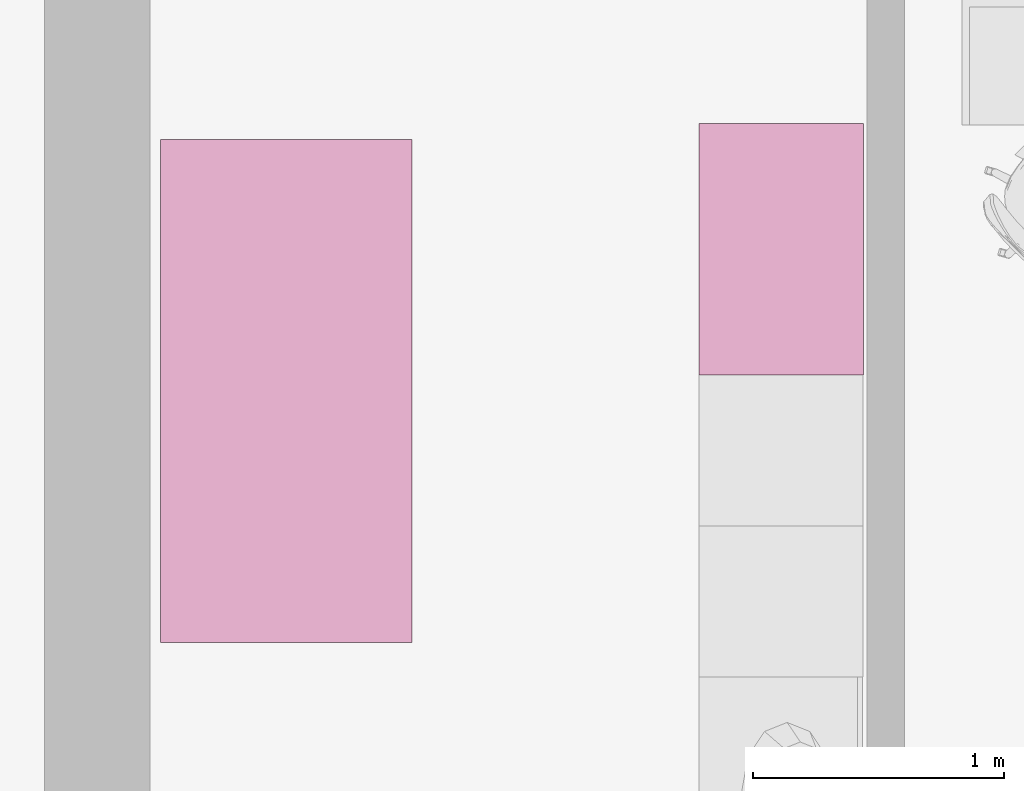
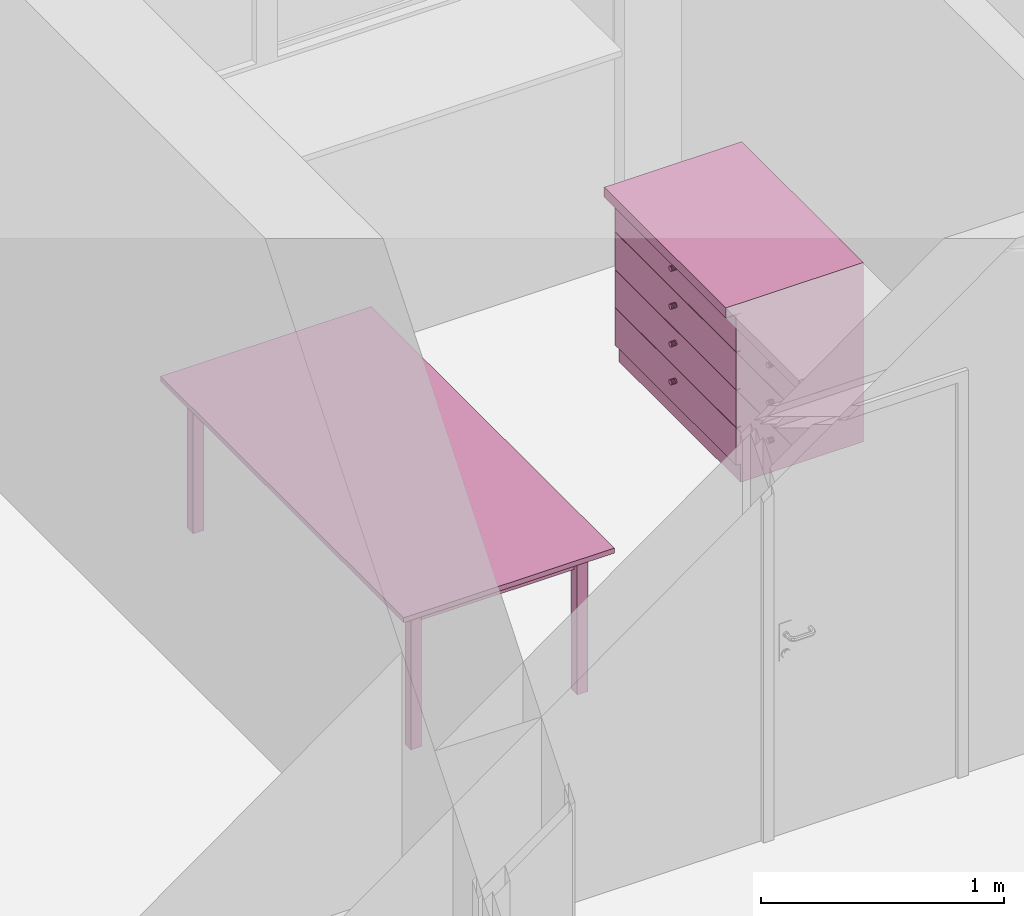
# One storey, part 109 of 127: 2 furnishings.
"""IFC2X3 building model written with IfcOpenShell, lengths in millimetres."""

from ifc_helpers import new_model, entity, si_unit, converted_unit, derived_unit, money_unit, direction, frame, origin_with_axes, place, context, subcontext, project, spatial, faceted_brep, type_object, element, save


model = new_model("IFC2X3")

# Units and contexts
model_context = context("Model", 3, precision=1e-05, world=origin_with_axes(), true_north=direction((0.0, 1.0)))
body_context = subcontext(model_context, "Body", "Model", "MODEL_VIEW")
ifc_project = project(units=[si_unit("LENGTHUNIT", "METRE", prefix="MILLI"), si_unit("AREAUNIT", "SQUARE_METRE"), si_unit("VOLUMEUNIT", "CUBIC_METRE"), converted_unit("PLANEANGLEUNIT", "DEGREE", entity("IfcPlaneAngleMeasure", 0.0174532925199), si_unit("PLANEANGLEUNIT", "RADIAN"), dimensions=[0, 0, 0, 0, 0, 0, 0]), si_unit("SOLIDANGLEUNIT", "STERADIAN"), money_unit("EUR"), converted_unit("TIMEUNIT", "Year", entity("IfcTimeMeasure", 31556926.0), si_unit("TIMEUNIT", "SECOND"), dimensions=[0, 0, 1, 0, 0, 0, 0]), si_unit("MASSUNIT", "GRAM", prefix="KILO"), si_unit("THERMODYNAMICTEMPERATUREUNIT", "DEGREE_CELSIUS"), si_unit("LUMINOUSINTENSITYUNIT", "LUMEN"), si_unit("ENERGYUNIT", "JOULE", prefix="MEGA"), derived_unit("THERMALCONDUCTANCEUNIT", [(si_unit("POWERUNIT", "WATT"), 1), (si_unit("LENGTHUNIT", "METRE"), -1), (si_unit("THERMODYNAMICTEMPERATUREUNIT", "KELVIN"), -1)]), derived_unit("SPECIFICHEATCAPACITYUNIT", [(si_unit("ENERGYUNIT", "JOULE"), 1), (si_unit("MASSUNIT", "GRAM", prefix="KILO"), -1), (si_unit("THERMODYNAMICTEMPERATUREUNIT", "KELVIN"), -1)]), derived_unit("MASSDENSITYUNIT", [(si_unit("MASSUNIT", "GRAM", prefix="KILO"), 1), (si_unit("VOLUMEUNIT", "CUBIC_METRE"), -1)])], contexts=[model_context])

# Site, building, storey
site_placement = place(None, origin_with_axes())
site = spatial("IfcSite", under=ifc_project, at=site_placement, Name="Site", CompositionType="ELEMENT")
building_placement = place(site_placement, origin_with_axes())
building = spatial("IfcBuilding", under=site, at=building_placement, Name="Building", CompositionType="ELEMENT")
storey_placement = place(building_placement, origin_with_axes())
storey = spatial("IfcBuildingStorey", under=building, at=storey_placement, Name="1 KORRUS", CompositionType="ELEMENT", Elevation=0.0)

# Furnishings
furnishing_element_type_1 = type_object("IfcFurnishingElementType", Name="Model Element 29")
furnishing_1_placement = place(storey_placement, frame((17200.3658533, 68504.2060614, 0.0), z_axis=(0.0, 0.0, 1.0), x_axis=(0.0, 1.0, 0.0)))
element("IfcFurnishingElement", 1, at=furnishing_1_placement, inside=storey, type_object=furnishing_element_type_1, Name="FU - 017", context=body_context, shape_type="Brep", body=[
    faceted_brep([(130.0, 80.0, 0.0), (80.0, 80.0, 0.0), (80.0, 130.0, 0.0), (130.0, 130.0, 0.0), (130.0, 80.0, 715.0), (80.0, 80.0, 715.0), (80.0, 130.0, 715.0), (130.0, 130.0, 715.0)], [[[0, 1, 2, 3]], [[1, 0, 4, 5]], [[2, 1, 5, 6]], [[3, 2, 6, 7]], [[0, 3, 7, 4]], [[5, 4, 7, 6]]]),
    faceted_brep([(1920.0, 80.0, 0.0), (1870.0, 80.0, 0.0), (1870.0, 130.0, 0.0), (1920.0, 130.0, 0.0), (1920.0, 80.0, 715.0), (1870.0, 80.0, 715.0), (1870.0, 130.0, 715.0), (1920.0, 130.0, 715.0)], [[[0, 1, 2, 3]], [[1, 0, 4, 5]], [[2, 1, 5, 6]], [[3, 2, 6, 7]], [[0, 3, 7, 4]], [[5, 4, 7, 6]]]),
    faceted_brep([(130.0, 870.0, 0.0), (80.0, 870.0, 0.0), (80.0, 920.0, 0.0), (130.0, 920.0, 0.0), (130.0, 870.0, 715.0), (80.0, 870.0, 715.0), (80.0, 920.0, 715.0), (130.0, 920.0, 715.0)], [[[0, 1, 2, 3]], [[1, 0, 4, 5]], [[2, 1, 5, 6]], [[3, 2, 6, 7]], [[0, 3, 7, 4]], [[5, 4, 7, 6]]]),
    faceted_brep([(1920.0, 870.0, 0.0), (1870.0, 870.0, 0.0), (1870.0, 920.0, 0.0), (1920.0, 920.0, 0.0), (1920.0, 870.0, 715.0), (1870.0, 870.0, 715.0), (1870.0, 920.0, 715.0), (1920.0, 920.0, 715.0)], [[[0, 1, 2, 3]], [[1, 0, 4, 5]], [[2, 1, 5, 6]], [[3, 2, 6, 7]], [[0, 3, 7, 4]], [[5, 4, 7, 6]]]),
    faceted_brep([(2000.0, 0.0, 715.0), (0.0, 0.0, 715.0), (0.0, 1000.0, 715.0), (2000.0, 1000.0, 715.0), (2000.0, 0.0, 740.0), (0.0, 0.0, 740.0), (0.0, 1000.0, 740.0), (2000.0, 1000.0, 740.0)], [[[0, 1, 2, 3]], [[1, 0, 4, 5]], [[2, 1, 5, 6]], [[3, 2, 6, 7]], [[0, 3, 7, 4]], [[5, 4, 7, 6]]]),
    faceted_brep([(130.0, 105.0, 615.0), (1870.0, 105.0, 615.0), (1870.0, 105.0, 715.0), (130.0, 105.0, 715.0), (130.0, 130.0, 615.0), (155.0, 130.0, 615.0), (155.0, 155.0, 615.0), (1845.0, 155.0, 615.0), (1845.0, 130.0, 615.0), (1870.0, 130.0, 615.0), (1870.0, 130.0, 715.0), (1845.0, 130.0, 715.0), (1845.0, 155.0, 715.0), (155.0, 155.0, 715.0), (155.0, 130.0, 715.0), (130.0, 130.0, 715.0)], [[[0, 1, 2, 3]], [[0, 4, 5, 6, 7, 8, 9, 1]], [[1, 9, 10, 2]], [[3, 2, 10, 11, 12, 13, 14, 15]], [[4, 0, 3, 15]], [[5, 4, 15, 14]], [[6, 5, 14, 13]], [[7, 6, 13, 12]], [[8, 7, 12, 11]], [[9, 8, 11, 10]]]),
    faceted_brep([(155.0, 130.0, 615.0), (105.0, 130.0, 615.0), (105.0, 870.0, 615.0), (155.0, 870.0, 615.0), (155.0, 130.0, 715.0), (105.0, 130.0, 715.0), (105.0, 870.0, 715.0), (155.0, 870.0, 715.0)], [[[0, 1, 2, 3]], [[1, 0, 4, 5]], [[2, 1, 5, 6]], [[3, 2, 6, 7]], [[0, 3, 7, 4]], [[5, 4, 7, 6]]]),
    faceted_brep([(1870.0, 895.0, 615.0), (130.0, 895.0, 615.0), (130.0, 895.0, 715.0), (1870.0, 895.0, 715.0), (1870.0, 870.0, 615.0), (1845.0, 870.0, 615.0), (1845.0, 845.0, 615.0), (155.0, 845.0, 615.0), (155.0, 870.0, 615.0), (130.0, 870.0, 615.0), (130.0, 870.0, 715.0), (155.0, 870.0, 715.0), (155.0, 845.0, 715.0), (1845.0, 845.0, 715.0), (1845.0, 870.0, 715.0), (1870.0, 870.0, 715.0)], [[[0, 1, 2, 3]], [[0, 4, 5, 6, 7, 8, 9, 1]], [[1, 9, 10, 2]], [[3, 2, 10, 11, 12, 13, 14, 15]], [[4, 0, 3, 15]], [[5, 4, 15, 14]], [[6, 5, 14, 13]], [[7, 6, 13, 12]], [[8, 7, 12, 11]], [[9, 8, 11, 10]]]),
    faceted_brep([(1845.0, 870.0, 615.0), (1895.0, 870.0, 615.0), (1895.0, 130.0, 615.0), (1845.0, 130.0, 615.0), (1845.0, 870.0, 715.0), (1895.0, 870.0, 715.0), (1895.0, 130.0, 715.0), (1845.0, 130.0, 715.0)], [[[0, 1, 2, 3]], [[1, 0, 4, 5]], [[2, 1, 5, 6]], [[3, 2, 6, 7]], [[0, 3, 7, 4]], [[5, 4, 7, 6]]]),
])
furnishing_element_type_2 = type_object("IfcFurnishingElementType", Name="Model Element 28")
furnishing_2_placement = place(storey_placement, frame((18343.894127, 70567.8278971, 0.0), z_axis=(0.0, 0.0, 1.0), x_axis=(0.0, -1.0, 0.0)))
element("IfcFurnishingElement", 2, at=furnishing_2_placement, inside=storey, type_object=furnishing_element_type_2, Name="FU - 006", context=body_context, shape_type="Brep", body=[
    faceted_brep([(1.5, 70.0, 91.5), (998.5, 70.0, 91.5), (998.5, 50.0, 91.5), (1.5, 50.0, 91.5), (1.5, 70.0, 278.5), (998.5, 70.0, 278.5), (998.5, 50.0, 278.5), (1.5, 50.0, 278.5)], [[[0, 1, 2, 3]], [[0, 4, 5, 1]], [[1, 5, 6, 2]], [[3, 2, 6, 7]], [[4, 0, 3, 7]], [[5, 4, 7, 6]]]),
    faceted_brep([(495.407798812, 50.0, 203.91344561), (491.514718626, 50.0, 206.514718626), (488.91344561, 50.0, 210.407798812), (488.0, 50.0, 215.0), (488.91344561, 50.0, 219.592201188), (491.514718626, 50.0, 223.485281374), (495.407798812, 50.0, 226.08655439), (500.0, 50.0, 227.0), (504.592201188, 50.0, 226.08655439), (508.485281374, 50.0, 223.485281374), (511.08655439, 50.0, 219.592201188), (512.0, 50.0, 215.0), (511.08655439, 50.0, 210.407798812), (508.485281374, 50.0, 206.514718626), (504.592201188, 50.0, 203.91344561), (500.0, 50.0, 203.0), (495.407798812, 25.0, 203.91344561), (491.514718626, 25.0, 206.514718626), (488.91344561, 25.0, 210.407798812), (488.0, 25.0, 215.0), (488.91344561, 25.0, 219.592201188), (491.514718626, 25.0, 223.485281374), (495.407798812, 25.0, 226.08655439), (500.0, 25.0, 227.0), (504.592201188, 25.0, 226.08655439), (508.485281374, 25.0, 223.485281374), (511.08655439, 25.0, 219.592201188), (512.0, 25.0, 215.0), (511.08655439, 25.0, 210.407798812), (508.485281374, 25.0, 206.514718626), (504.592201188, 25.0, 203.91344561), (500.0, 25.0, 203.0)], [[[0, 1, 2, 3, 4, 5, 6, 7, 8, 9, 10, 11, 12, 13, 14, 15]], [[1, 0, 16, 17]], [[2, 1, 17, 18]], [[3, 2, 18, 19]], [[4, 3, 19, 20]], [[5, 4, 20, 21]], [[6, 5, 21, 22]], [[7, 6, 22, 23]], [[8, 7, 23, 24]], [[9, 8, 24, 25]], [[10, 9, 25, 26]], [[11, 10, 26, 27]], [[12, 11, 27, 28]], [[13, 12, 28, 29]], [[14, 13, 29, 30]], [[15, 14, 30, 31]], [[0, 15, 31, 16]], [[16, 31, 30, 29, 28, 27, 26, 25, 24, 23, 22, 21, 20, 19, 18, 17]]]),
    faceted_brep([(1.5, 70.0, 281.5), (998.5, 70.0, 281.5), (998.5, 50.0, 281.5), (1.5, 50.0, 281.5), (1.5, 70.0, 468.5), (998.5, 70.0, 468.5), (998.5, 50.0, 468.5), (1.5, 50.0, 468.5)], [[[0, 1, 2, 3]], [[0, 4, 5, 1]], [[1, 5, 6, 2]], [[3, 2, 6, 7]], [[4, 0, 3, 7]], [[5, 4, 7, 6]]]),
    faceted_brep([(495.407798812, 50.0, 393.91344561), (491.514718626, 50.0, 396.514718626), (488.91344561, 50.0, 400.407798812), (488.0, 50.0, 405.0), (488.91344561, 50.0, 409.592201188), (491.514718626, 50.0, 413.485281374), (495.407798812, 50.0, 416.08655439), (500.0, 50.0, 417.0), (504.592201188, 50.0, 416.08655439), (508.485281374, 50.0, 413.485281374), (511.08655439, 50.0, 409.592201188), (512.0, 50.0, 405.0), (511.08655439, 50.0, 400.407798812), (508.485281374, 50.0, 396.514718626), (504.592201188, 50.0, 393.91344561), (500.0, 50.0, 393.0), (495.407798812, 25.0, 393.91344561), (491.514718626, 25.0, 396.514718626), (488.91344561, 25.0, 400.407798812), (488.0, 25.0, 405.0), (488.91344561, 25.0, 409.592201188), (491.514718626, 25.0, 413.485281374), (495.407798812, 25.0, 416.08655439), (500.0, 25.0, 417.0), (504.592201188, 25.0, 416.08655439), (508.485281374, 25.0, 413.485281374), (511.08655439, 25.0, 409.592201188), (512.0, 25.0, 405.0), (511.08655439, 25.0, 400.407798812), (508.485281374, 25.0, 396.514718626), (504.592201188, 25.0, 393.91344561), (500.0, 25.0, 393.0)], [[[0, 1, 2, 3, 4, 5, 6, 7, 8, 9, 10, 11, 12, 13, 14, 15]], [[1, 0, 16, 17]], [[2, 1, 17, 18]], [[3, 2, 18, 19]], [[4, 3, 19, 20]], [[5, 4, 20, 21]], [[6, 5, 21, 22]], [[7, 6, 22, 23]], [[8, 7, 23, 24]], [[9, 8, 24, 25]], [[10, 9, 25, 26]], [[11, 10, 26, 27]], [[12, 11, 27, 28]], [[13, 12, 28, 29]], [[14, 13, 29, 30]], [[15, 14, 30, 31]], [[0, 15, 31, 16]], [[16, 31, 30, 29, 28, 27, 26, 25, 24, 23, 22, 21, 20, 19, 18, 17]]]),
    faceted_brep([(20.0, 70.0, 280.0), (980.0, 70.0, 280.0), (980.0, 70.0, 300.0), (20.0, 70.0, 300.0), (20.0, 633.356359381, 280.0), (980.0, 633.356359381, 280.0), (980.0, 633.356359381, 300.0), (20.0, 633.356359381, 300.0)], [[[0, 1, 2, 3]], [[0, 4, 5, 1]], [[1, 5, 6, 2]], [[3, 2, 6, 7]], [[4, 0, 3, 7]], [[5, 4, 7, 6]]]),
    faceted_brep([(1.5, 70.0, 471.5), (998.5, 70.0, 471.5), (998.5, 50.0, 471.5), (1.5, 50.0, 471.5), (1.5, 70.0, 658.5), (998.5, 70.0, 658.5), (998.5, 50.0, 658.5), (1.5, 50.0, 658.5)], [[[0, 1, 2, 3]], [[0, 4, 5, 1]], [[1, 5, 6, 2]], [[3, 2, 6, 7]], [[4, 0, 3, 7]], [[5, 4, 7, 6]]]),
    faceted_brep([(495.407798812, 50.0, 583.91344561), (491.514718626, 50.0, 586.514718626), (488.91344561, 50.0, 590.407798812), (488.0, 50.0, 595.0), (488.91344561, 50.0, 599.592201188), (491.514718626, 50.0, 603.485281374), (495.407798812, 50.0, 606.08655439), (500.0, 50.0, 607.0), (504.592201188, 50.0, 606.08655439), (508.485281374, 50.0, 603.485281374), (511.08655439, 50.0, 599.592201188), (512.0, 50.0, 595.0), (511.08655439, 50.0, 590.407798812), (508.485281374, 50.0, 586.514718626), (504.592201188, 50.0, 583.91344561), (500.0, 50.0, 583.0), (495.407798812, 25.0, 583.91344561), (491.514718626, 25.0, 586.514718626), (488.91344561, 25.0, 590.407798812), (488.0, 25.0, 595.0), (488.91344561, 25.0, 599.592201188), (491.514718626, 25.0, 603.485281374), (495.407798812, 25.0, 606.08655439), (500.0, 25.0, 607.0), (504.592201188, 25.0, 606.08655439), (508.485281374, 25.0, 603.485281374), (511.08655439, 25.0, 599.592201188), (512.0, 25.0, 595.0), (511.08655439, 25.0, 590.407798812), (508.485281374, 25.0, 586.514718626), (504.592201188, 25.0, 583.91344561), (500.0, 25.0, 583.0)], [[[0, 1, 2, 3, 4, 5, 6, 7, 8, 9, 10, 11, 12, 13, 14, 15]], [[1, 0, 16, 17]], [[2, 1, 17, 18]], [[3, 2, 18, 19]], [[4, 3, 19, 20]], [[5, 4, 20, 21]], [[6, 5, 21, 22]], [[7, 6, 22, 23]], [[8, 7, 23, 24]], [[9, 8, 24, 25]], [[10, 9, 25, 26]], [[11, 10, 26, 27]], [[12, 11, 27, 28]], [[13, 12, 28, 29]], [[14, 13, 29, 30]], [[15, 14, 30, 31]], [[0, 15, 31, 16]], [[16, 31, 30, 29, 28, 27, 26, 25, 24, 23, 22, 21, 20, 19, 18, 17]]]),
    faceted_brep([(20.0, 70.0, 470.0), (980.0, 70.0, 470.0), (980.0, 70.0, 490.0), (20.0, 70.0, 490.0), (20.0, 633.356359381, 470.0), (980.0, 633.356359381, 470.0), (980.0, 633.356359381, 490.0), (20.0, 633.356359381, 490.0)], [[[0, 1, 2, 3]], [[0, 4, 5, 1]], [[1, 5, 6, 2]], [[3, 2, 6, 7]], [[4, 0, 3, 7]], [[5, 4, 7, 6]]]),
    faceted_brep([(1.5, 70.0, 661.5), (998.5, 70.0, 661.5), (998.5, 50.0, 661.5), (1.5, 50.0, 661.5), (1.5, 70.0, 848.5), (998.5, 70.0, 848.5), (998.5, 50.0, 848.5), (1.5, 50.0, 848.5)], [[[0, 1, 2, 3]], [[0, 4, 5, 1]], [[1, 5, 6, 2]], [[3, 2, 6, 7]], [[4, 0, 3, 7]], [[5, 4, 7, 6]]]),
    faceted_brep([(495.407798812, 50.0, 773.91344561), (491.514718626, 50.0, 776.514718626), (488.91344561, 50.0, 780.407798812), (488.0, 50.0, 785.0), (488.91344561, 50.0, 789.592201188), (491.514718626, 50.0, 793.485281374), (495.407798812, 50.0, 796.08655439), (500.0, 50.0, 797.0), (504.592201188, 50.0, 796.08655439), (508.485281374, 50.0, 793.485281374), (511.08655439, 50.0, 789.592201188), (512.0, 50.0, 785.0), (511.08655439, 50.0, 780.407798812), (508.485281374, 50.0, 776.514718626), (504.592201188, 50.0, 773.91344561), (500.0, 50.0, 773.0), (495.407798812, 25.0, 773.91344561), (491.514718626, 25.0, 776.514718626), (488.91344561, 25.0, 780.407798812), (488.0, 25.0, 785.0), (488.91344561, 25.0, 789.592201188), (491.514718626, 25.0, 793.485281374), (495.407798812, 25.0, 796.08655439), (500.0, 25.0, 797.0), (504.592201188, 25.0, 796.08655439), (508.485281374, 25.0, 793.485281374), (511.08655439, 25.0, 789.592201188), (512.0, 25.0, 785.0), (511.08655439, 25.0, 780.407798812), (508.485281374, 25.0, 776.514718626), (504.592201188, 25.0, 773.91344561), (500.0, 25.0, 773.0)], [[[0, 1, 2, 3, 4, 5, 6, 7, 8, 9, 10, 11, 12, 13, 14, 15]], [[1, 0, 16, 17]], [[2, 1, 17, 18]], [[3, 2, 18, 19]], [[4, 3, 19, 20]], [[5, 4, 20, 21]], [[6, 5, 21, 22]], [[7, 6, 22, 23]], [[8, 7, 23, 24]], [[9, 8, 24, 25]], [[10, 9, 25, 26]], [[11, 10, 26, 27]], [[12, 11, 27, 28]], [[13, 12, 28, 29]], [[14, 13, 29, 30]], [[15, 14, 30, 31]], [[0, 15, 31, 16]], [[16, 31, 30, 29, 28, 27, 26, 25, 24, 23, 22, 21, 20, 19, 18, 17]]]),
    faceted_brep([(20.0, 70.0, 660.0), (980.0, 70.0, 660.0), (980.0, 70.0, 680.0), (20.0, 70.0, 680.0), (20.0, 633.356359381, 660.0), (980.0, 633.356359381, 660.0), (980.0, 633.356359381, 680.0), (20.0, 633.356359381, 680.0)], [[[0, 1, 2, 3]], [[0, 4, 5, 1]], [[1, 5, 6, 2]], [[3, 2, 6, 7]], [[4, 0, 3, 7]], [[5, 4, 7, 6]]]),
    faceted_brep([(0.0, 70.0, 0.0), (1000.0, 70.0, 0.0), (1000.0, 70.0, 90.0), (0.0, 70.0, 90.0), (0.0, 653.356359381, 0.0), (1000.0, 653.356359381, 0.0), (1000.0, 653.356359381, 90.0), (0.0, 653.356359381, 90.0)], [[[0, 1, 2, 3]], [[0, 4, 5, 1]], [[1, 5, 6, 2]], [[3, 2, 6, 7]], [[4, 0, 3, 7]], [[5, 4, 7, 6]]]),
    faceted_brep([(0.0, 70.0, 830.0), (20.0, 70.0, 830.0), (20.0, 70.0, 850.0), (0.0, 70.0, 850.0), (0.0, 653.356359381, 830.0), (20.0, 653.356359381, 830.0), (980.0, 653.356359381, 830.0), (1000.0, 653.356359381, 830.0), (1000.0, 70.0, 830.0), (980.0, 70.0, 830.0), (980.0, 70.0, 850.0), (1000.0, 70.0, 850.0), (1000.0, 653.356359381, 850.0), (980.0, 653.356359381, 850.0), (20.0, 653.356359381, 850.0), (0.0, 653.356359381, 850.0)], [[[0, 1, 2, 3]], [[0, 4, 5, 6, 7, 8, 9, 1]], [[1, 9, 10, 2]], [[3, 2, 10, 11, 12, 13, 14, 15]], [[4, 0, 3, 15]], [[5, 4, 15, 14]], [[6, 5, 14, 13]], [[7, 6, 13, 12]], [[8, 7, 12, 11]], [[9, 8, 11, 10]]]),
    faceted_brep([(0.0, 70.0, 90.0), (20.0, 70.0, 90.0), (20.0, 70.0, 110.0), (0.0, 70.0, 110.0), (0.0, 653.356359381, 90.0), (20.0, 653.356359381, 90.0), (980.0, 653.356359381, 90.0), (1000.0, 653.356359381, 90.0), (1000.0, 70.0, 90.0), (980.0, 70.0, 90.0), (980.0, 70.0, 110.0), (1000.0, 70.0, 110.0), (1000.0, 653.356359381, 110.0), (980.0, 653.356359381, 110.0), (20.0, 653.356359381, 110.0), (0.0, 653.356359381, 110.0)], [[[0, 1, 2, 3]], [[0, 4, 5, 6, 7, 8, 9, 1]], [[1, 9, 10, 2]], [[3, 2, 10, 11, 12, 13, 14, 15]], [[4, 0, 3, 15]], [[5, 4, 15, 14]], [[6, 5, 14, 13]], [[7, 6, 13, 12]], [[8, 7, 12, 11]], [[9, 8, 11, 10]]]),
    faceted_brep([(0.0, 70.0, 110.0), (20.0, 70.0, 110.0), (20.0, 70.0, 830.0), (0.0, 70.0, 830.0), (0.0, 653.356359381, 110.0), (1000.0, 653.356359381, 110.0), (1000.0, 70.0, 110.0), (980.0, 70.0, 110.0), (980.0, 633.356359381, 110.0), (20.0, 633.356359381, 110.0), (20.0, 633.356359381, 830.0), (980.0, 633.356359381, 830.0), (980.0, 70.0, 830.0), (1000.0, 70.0, 830.0), (1000.0, 653.356359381, 830.0), (0.0, 653.356359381, 830.0)], [[[0, 1, 2, 3]], [[0, 4, 5, 6, 7, 8, 9, 1]], [[1, 9, 10, 2]], [[3, 2, 10, 11, 12, 13, 14, 15]], [[4, 0, 3, 15]], [[5, 4, 15, 14]], [[6, 5, 14, 13]], [[7, 6, 13, 12]], [[8, 7, 12, 11]], [[9, 8, 11, 10]]]),
    faceted_brep([(0.0, 0.0, 850.0), (1000.0, 0.0, 850.0), (1000.0, 0.0, 900.0), (0.0, 0.0, 900.0), (0.0, 653.356359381, 850.0), (1000.0, 653.356359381, 850.0), (1000.0, 653.356359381, 900.0), (0.0, 653.356359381, 900.0)], [[[0, 1, 2, 3]], [[0, 4, 5, 1]], [[1, 5, 6, 2]], [[3, 2, 6, 7]], [[4, 0, 3, 7]], [[5, 4, 7, 6]]]),
])

save(model, "model.ifc")
